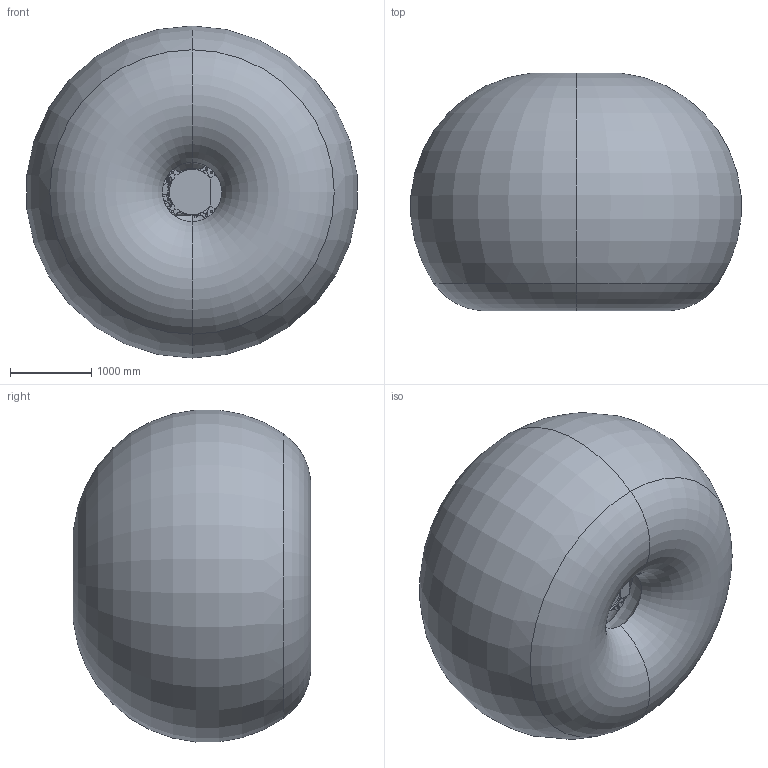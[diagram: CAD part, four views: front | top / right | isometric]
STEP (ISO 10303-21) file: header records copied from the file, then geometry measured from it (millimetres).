
FILE_DESCRIPTION (( 'STEP AP214' ), '1' );
FILE_NAME ('SMART-5 NJ-130-2.05 (3D-STEP).STEP', '2015-04-14T13:47:58', ( '' ), ( '' ), 'SwSTEP 2.0', 'SolidWorks 2014', '' );
FILE_SCHEMA (( 'AUTOMOTIVE_DESIGN' ));
Length unit declared in the file: millimetre
Products named in the file (21): SMART-5 NJ-130-2.05_p01; Operation area SMART-5 NJ-130-2.05; SMART-5 NJ-130-2.05_CR82370032-SM; SMART-5 NJ-130-2.05 (3D-STEP); SMART-5 NJ-130-2.05_CR82370051-SM; SMART-5 NJ-130-2.05_CR82370094-SM; SMART-5 NJ-130-2.05_CR82370074-SM; SMART-5 NJ-130-2.05_cab03; SMART-5 NJ-130-2.05_cab02; SMART-5 NJ-130-2.05_cab01; SMART-5 NJ-130-2.05_p12; SMART-5 NJ-130-2.05_p11; SMART-5 NJ-130-2.05_p10; SMART-5 NJ-130-2.05_p09; SMART-5 NJ-130-2.05_p08; SMART-5 NJ-130-2.05_p07; SMART-5 NJ-130-2.05_p06; SMART-5 NJ-130-2.05_p05; SMART-5 NJ-130-2.05_p04; SMART-5 NJ-130-2.05_p03; SMART-5 NJ-130-2.05_p02
Assembly tree (21 placements, depth 2):
  SMART-5 NJ-130-2.05 (3D-STEP)
    SMART-5 NJ-130-2.05_p01
    SMART-5 NJ-130-2.05_p02
    SMART-5 NJ-130-2.05_p03
    SMART-5 NJ-130-2.05_p04
    SMART-5 NJ-130-2.05_p05
    SMART-5 NJ-130-2.05_p06
    SMART-5 NJ-130-2.05_p07
    SMART-5 NJ-130-2.05_p08
    SMART-5 NJ-130-2.05_p09
    SMART-5 NJ-130-2.05_p10
    SMART-5 NJ-130-2.05_p11
    SMART-5 NJ-130-2.05_p12
    SMART-5 NJ-130-2.05_cab01
    SMART-5 NJ-130-2.05_cab02
    SMART-5 NJ-130-2.05_cab03
    SMART-5 NJ-130-2.05_CR82370074-SM  x2
    SMART-5 NJ-130-2.05_CR82370094-SM
    SMART-5 NJ-130-2.05_CR82370051-SM
    SMART-5 NJ-130-2.05_CR82370032-SM
    Operation area SMART-5 NJ-130-2.05
Bounding box: 4066.4 x 2928.3 x 4088.8 mm (x, y, z)
Volume: 27056079000 mm3; surface area: 64293795.9 mm2
Topology: 21 solids, 21 shells, 3726 faces, 9930 edges, 6386 vertices
Faces by surface type: plane 1600, cylinder 1549, cone 270, torus 156, bspline 147, sphere 4
Entity records: 134915 total; most frequent: CARTESIAN_POINT 37209, ORIENTED_EDGE 18226, DIRECTION 17880, EDGE_CURVE 9113, AXIS2_PLACEMENT_3D 6547, VERTEX_POINT 5960, LINE 4786, VECTOR 4786
